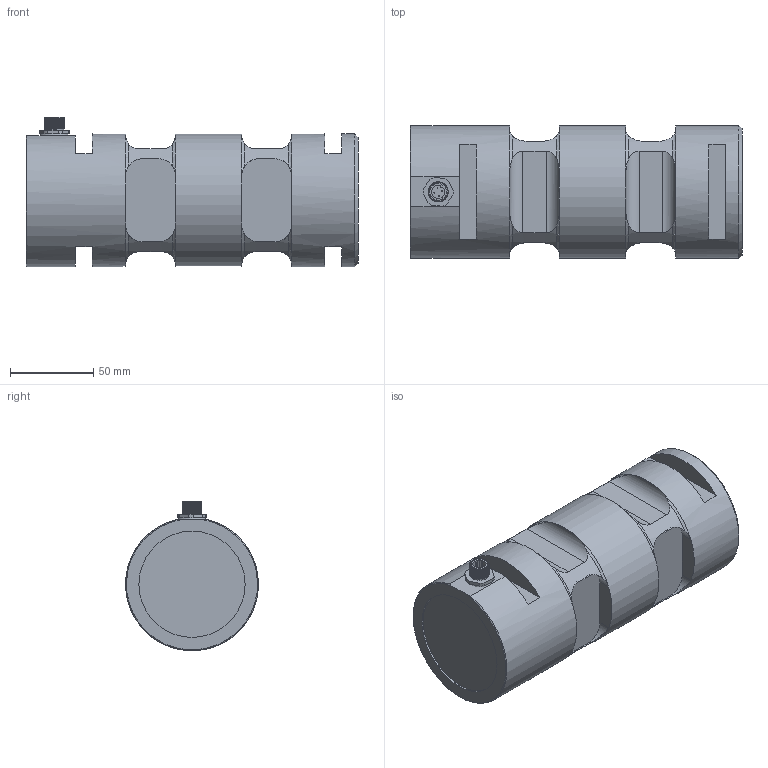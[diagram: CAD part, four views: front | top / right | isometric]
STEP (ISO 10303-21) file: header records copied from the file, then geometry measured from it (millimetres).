
FILE_DESCRIPTION(/* description */ ('Alibre Inc.'),/* implementation_level */ '2;1');
FILE_NAME(/* name */ 'export1',/* time_stamp */ '2018-03-29T12:25:55+02:00',/* author */ (''),/* organization */ (''),/* preprocessor_version */ 'ST-DEVELOPER v14',/* originating_system */ 'Alibre',/* authorisation */ '');
FILE_SCHEMA (('CONFIG_CONTROL_DESIGN'));
Length unit declared in the file: centimetre
Products named in the file (6): ID_1; ID_2; ID_3; ID_4
Bounding box: 200 x 80 x 89.97 mm (x, y, z)
Volume: 902146.2 mm3; surface area: 71808.6 mm2
Topology: 8 solids, 8 shells, 207 faces, 477 edges, 293 vertices
Faces by surface type: plane 90, cylinder 71, bspline 23, torus 17, cone 6
Full cylindrical faces by diameter (mm): 0.5 x8, 8 x2, 10 x4, 11.5 x1, 13 x1, 14.376 x1, 64 x1, 80 x3
Entity records: 19496 total; most frequent: CARTESIAN_POINT 15153, ORIENTED_EDGE 876, DIRECTION 540, EDGE_CURVE 433, VERTEX_POINT 279, FACE_BOUND 251, EDGE_LOOP 250, AXIS2_PLACEMENT_3D 238
